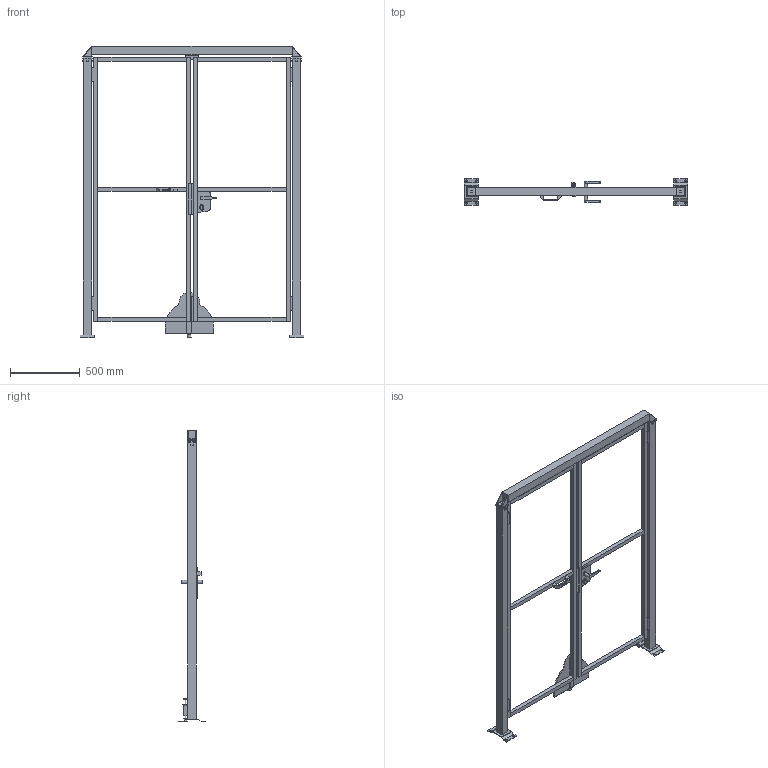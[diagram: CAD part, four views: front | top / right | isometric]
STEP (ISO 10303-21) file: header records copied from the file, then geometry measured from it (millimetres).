
FILE_DESCRIPTION(/* description */ (''),/* implementation_level */ '2;1');
FILE_NAME(/* name */ 'C:\SafeGuarding\ELABORATI\VZOR§GAMMA_2025-02-03-10-46-57.stp',/* time_stamp */ '2025-02-03T10:47:01+01:00',/* author */ ('admin'),/* organization */ (''),/* preprocessor_version */ 'ST-DEVELOPER v18.1',/* originating_system */ 'AutoCAD Mechanical',/* authorisation */ '');
FILE_SCHEMA (('AUTOMOTIVE_DESIGN { 1 0 10303 214 3 1 1 }'));
Length unit declared in the file: millimetre
Products named in the file (5): Product; R_VFPA.REPE30.07001900; *U4; DATI_PORTA; P_VFMA.ME60SDU.2020
Assembly tree (6 placements, depth 2):
  Product
    R_VFPA.REPE30.07001900  x2
    P_VFMA.ME60SDU.2020  x2
    *U4
    DATI_PORTA
Bounding box: 1605 x 192 x 2100.5 mm (x, y, z)
Volume: 31741669.5 mm3; surface area: 3396983.9 mm2
Topology: 40 solids, 51 shells, 473 faces, 1419 edges, 1304 vertices
Faces by surface type: plane 397, cylinder 71, bspline 4, cone 1
Full cylindrical faces by diameter (mm): 11 x25, 14 x2, 24 x1, 25 x2, 25.398 x2
Entity records: 14446 total; most frequent: CARTESIAN_POINT 3997, DIRECTION 2038, ORIENTED_EDGE 1924, EDGE_CURVE 1011, LINE 856, VECTOR 856, VERTEX_POINT 710, AXIS2_PLACEMENT_3D 591
